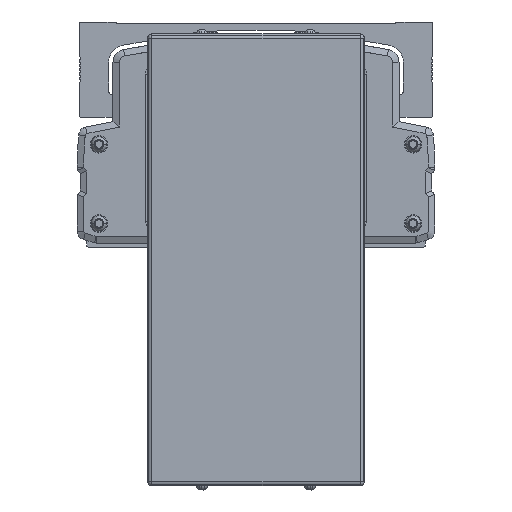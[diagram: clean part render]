
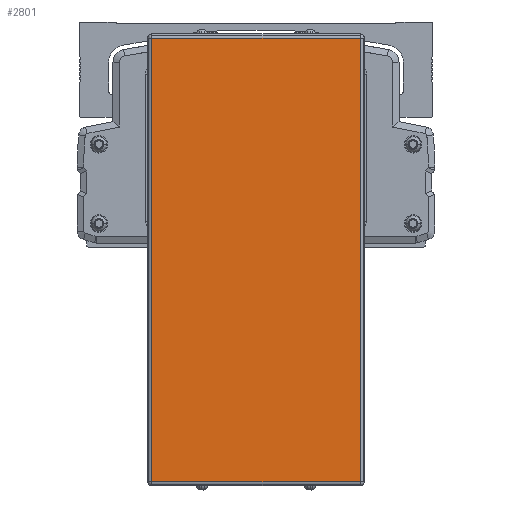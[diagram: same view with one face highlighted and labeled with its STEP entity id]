
A CAD part, front view. The second image highlights one B-rep face of the part: STEP entity #2801.
In plain terms, the highlighted planar face has unit normal (0, -1, 0).
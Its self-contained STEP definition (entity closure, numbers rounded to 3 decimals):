
#2801=ADVANCED_FACE('',(#7398),#7399,.T.);
#7398=FACE_OUTER_BOUND('',#14220,.T.);
#7399=PLANE('',#14221);
#14220=EDGE_LOOP('',(#24231,#24232,#24233,#24234));
#14221=AXIS2_PLACEMENT_3D('',#24235,#24236,#24237);
#24231=ORIENTED_EDGE('',*,*,#43212,.F.);
#24232=ORIENTED_EDGE('',*,*,#42249,.F.);
#24233=ORIENTED_EDGE('',*,*,#43061,.F.);
#24234=ORIENTED_EDGE('',*,*,#43213,.F.);
#24235=CARTESIAN_POINT('',(-600.,52.222,-57.8));
#24236=DIRECTION('',(0.,-1.0,0.));
#24237=DIRECTION('',(0.,0.,-1.0));
#42249=EDGE_CURVE('',#50114,#50116,#50117,.T.);
#43061=EDGE_CURVE('',#51553,#50114,#51555,.T.);
#43212=EDGE_CURVE('',#50116,#51812,#51813,.T.);
#43213=EDGE_CURVE('',#51812,#51553,#51814,.T.);
#50114=VERTEX_POINT('',#61623);
#50116=VERTEX_POINT('',#61625);
#50117=LINE('',#61626,#61627);
#51553=VERTEX_POINT('',#63675);
#51555=LINE('',#63677,#63678);
#51812=VERTEX_POINT('',#64025);
#51813=LINE('',#64026,#64027);
#51814=LINE('',#64028,#64029);
#61623=CARTESIAN_POINT('',(-648.,52.222,-160.1));
#61625=CARTESIAN_POINT('',(-648.,52.222,44.5));
#61626=CARTESIAN_POINT('',(-648.,52.222,-57.8));
#61627=VECTOR('',#78178,10.0);
#63675=CARTESIAN_POINT('',(-552.,52.222,-160.1));
#63677=CARTESIAN_POINT('',(-600.,52.222,-160.1));
#63678=VECTOR('',#79279,10.0);
#64025=CARTESIAN_POINT('',(-552.,52.222,44.5));
#64026=CARTESIAN_POINT('',(-600.,52.222,44.5));
#64027=VECTOR('',#79473,10.0);
#64028=CARTESIAN_POINT('',(-552.,52.222,-57.8));
#64029=VECTOR('',#79474,10.0);
#78178=DIRECTION('',(0.,0.,1.0));
#79279=DIRECTION('',(-1.0,0.,0.));
#79473=DIRECTION('',(1.0,0.,0.));
#79474=DIRECTION('',(0.,0.,-1.0));
